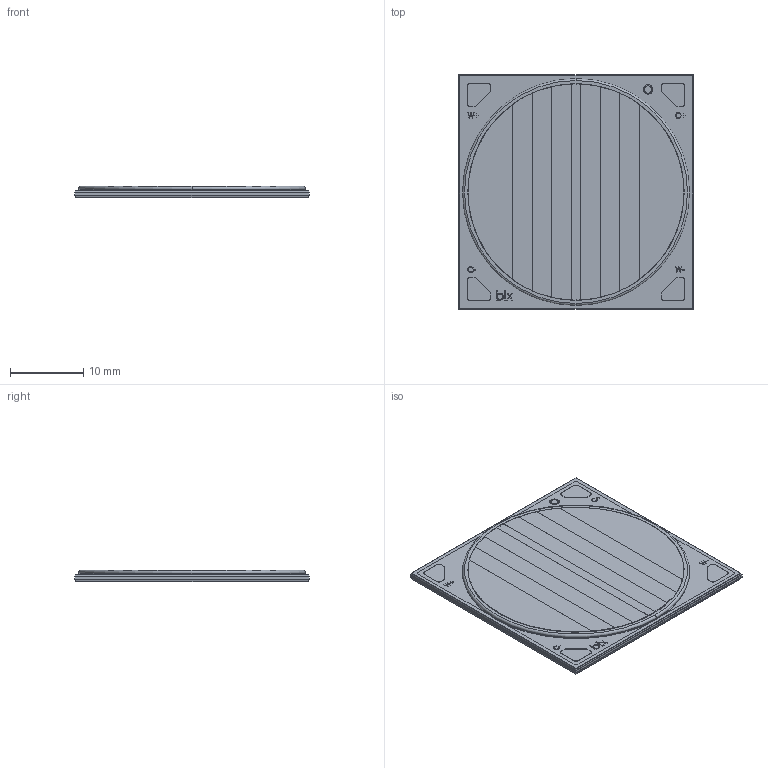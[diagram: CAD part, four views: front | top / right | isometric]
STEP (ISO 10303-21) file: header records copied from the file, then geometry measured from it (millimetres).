
FILE_DESCRIPTION (( 'STEP AP214' ), '1' );
FILE_NAME ('DPTW-29.STEP', '2019-01-25T23:54:01', ( '' ), ( '' ), 'SwSTEP 2.0', 'SolidWorks 2017', '' );
FILE_SCHEMA (( 'AUTOMOTIVE_DESIGN' ));
Length unit declared in the file: millimetre
Products named in the file (1): DPTW-29
Bounding box: 32.05 x 32.05 x 1.54 mm (x, y, z)
Volume: 1416.1 mm3; surface area: 6389.3 mm2
Topology: 17 solids, 17 shells, 375 faces, 954 edges, 626 vertices
Faces by surface type: plane 236, cylinder 95, bspline 26, torus 18
Entity records: 13263 total; most frequent: CARTESIAN_POINT 3748, ORIENTED_EDGE 1908, DIRECTION 1796, EDGE_CURVE 954, LINE 652, VECTOR 652, VERTEX_POINT 626, AXIS2_PLACEMENT_3D 572
